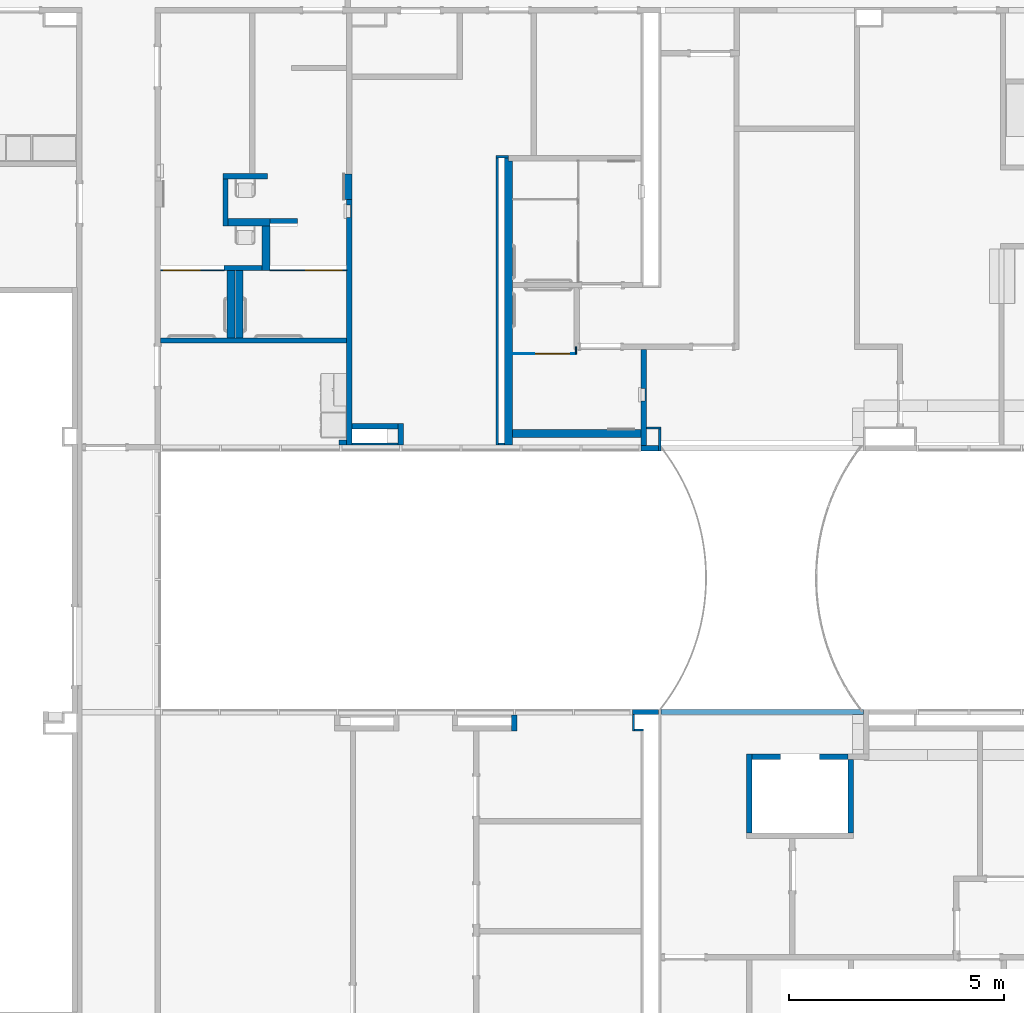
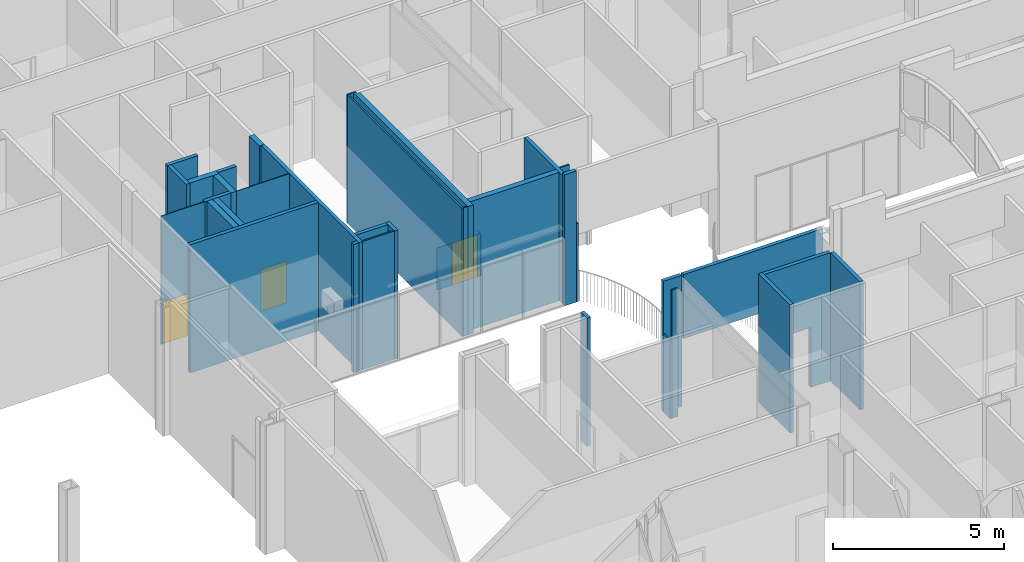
# One storey, part 13 of 45: 36 walls, 3 doors, 8 openings.
"""IFC2X3 building model written with IfcOpenShell, lengths in metres."""

from ifc_helpers import new_model, entity, si_unit, converted_unit, frame, frame_2d, origin, origin_2d_with_axis, place, context, project, spatial, polyline, rectangle, outline, extrude, source, transform, mapped, material, layer, layer_set, layer_usage, type_object, type_shapes, element, fill, save


model = new_model("IFC2X3")

# Units and contexts
model_context = context("Model", 3, precision=1e-09, world=origin())
plan_context = context("Plan", 3, precision=1e-09, world=origin())
ifc_project = project(units=[si_unit("LENGTHUNIT", "METRE"), si_unit("AREAUNIT", "SQUARE_METRE"), si_unit("VOLUMEUNIT", "CUBIC_METRE"), converted_unit("PLANEANGLEUNIT", "DEGREE", entity("IfcRatioMeasure", 0.01745329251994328), si_unit("PLANEANGLEUNIT", "RADIAN"), dimensions=[0, 0, 0, 0, 0, 0, 0]), si_unit("TIMEUNIT", "SECOND")], contexts=[model_context, plan_context])

# Site, building, storey
site_placement = place(None, origin())
site = spatial("IfcSite", under=ifc_project, at=site_placement, Name="Default", CompositionType="ELEMENT")
building_placement = place(site_placement, origin())
building = spatial("IfcBuilding", under=site, at=building_placement, CompositionType="ELEMENT")
storey_placement = place(building_placement, frame((0.0, 0.0, 4.570000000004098)))
storey = spatial("IfcBuildingStorey", under=building, at=storey_placement, Name="Second Floor", CompositionType="ELEMENT", Elevation=4.570000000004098)

# Wall, opening
ifc_material_1 = material(Name="Plasterboard")
ifc_layer_1 = layer(ifc_material_1, 0.016)
ifc_material_2 = material(Name="Metal - Stud Layer")
ifc_layer_2 = layer(ifc_material_2, 0.092)
ifc_layer_3 = layer(ifc_material_1, 0.016)
ifc_layer_set_1 = layer_set([ifc_layer_1, ifc_layer_2, ifc_layer_3], Name="Basic Wall:Interior - Partition (92mm Stud)")
ifc_layer_usage_1 = layer_usage(ifc_layer_set_1, "AXIS2", "NEGATIVE", 0.062)
wall_1_placement = place(storey_placement, frame((-19.85700000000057, 34.77180159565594, 0.0), z_axis=(0.0, 0.0, 1.0), x_axis=(-1.0, 0.0, 0.0)))
wall_1 = element("IfcWallStandardCase", 1, at=wall_1_placement, inside=storey, material=ifc_layer_usage_1, Name="Basic Wall:Interior - Partition (92mm Stud)", ObjectType="Basic Wall:Interior - Partition (92mm Stud)", context=model_context, shape_type="SweptSolid", body=[
    extrude(rectangle(XDim=0.4059999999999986, YDim=0.1240000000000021, at=frame_2d((0.2300000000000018, 0.0), x_axis=(-1.0, 0.0))), origin(), (0.0, 0.0, 1.0), 4.679999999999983),
])
opening_1_placement = place(wall_1_placement, origin())
element("IfcOpeningElement", 2, at=opening_1_placement, cuts=wall_1, ObjectType="Opening", context=model_context, shape_type="SweptSolid", body=[
    extrude(rectangle(XDim=2.4, YDim=11.19900000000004, at=origin_2d_with_axis()), frame((6.032500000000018, -0.2144000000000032, 1.199999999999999), z_axis=(0.0, 1.0, 0.0), x_axis=(0.0, 0.0, 1.0)), (0.0, 0.0, 1.0), 0.4288000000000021),
])

ifc_layer_usage_2 = layer_usage(ifc_layer_set_1, "AXIS2", "POSITIVE", -0.062)
wall_2_placement = place(storey_placement, frame((-19.85700000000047, 28.62819840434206, 0.0), z_axis=(0.0, 0.0, 1.0), x_axis=(-1.0, 0.0, 0.0)))
wall_2 = element("IfcWallStandardCase", 3, at=wall_2_placement, inside=storey, material=ifc_layer_usage_2, Name="Basic Wall:Interior - Partition (92mm Stud)", ObjectType="Basic Wall:Interior - Partition (92mm Stud)", context=model_context, shape_type="SweptSolid", body=[
    extrude(rectangle(XDim=0.1240000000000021, YDim=0.6110000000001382, at=frame_2d((0.3325000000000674, 0.0), x_axis=(0.0, 1.0))), origin(), (0.0, 0.0, 1.0), 4.679999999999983),
])
opening_2_placement = place(wall_2_placement, origin())
element("IfcOpeningElement", 4, at=opening_2_placement, cuts=wall_2, ObjectType="Opening", context=model_context, shape_type="SweptSolid", body=[
    extrude(rectangle(XDim=2.399999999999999, YDim=10.99100000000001, at=origin_2d_with_axis()), frame((6.133500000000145, -0.2144000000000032, 1.199999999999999), z_axis=(0.0, 1.0, 0.0), x_axis=(0.0, 0.0, 1.0)), (0.0, 0.0, 1.0), 0.4288000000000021),
])

wall_3_placement = place(storey_placement, frame((-27.08800000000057, 34.84680159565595, 0.0), z_axis=(0.0, 0.0, 1.0), x_axis=(0.0, 1.0, 0.0)))
wall_3 = element("IfcWallStandardCase", 5, at=wall_3_placement, inside=storey, material=ifc_layer_usage_1, Name="Basic Wall:Interior - Partition (92mm Stud)", ObjectType="Basic Wall:Interior - Partition (92mm Stud)", context=model_context, shape_type="SweptSolid", body=[
    extrude(rectangle(XDim=5.717637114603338, YDim=0.1239999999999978, at=frame_2d((2.858818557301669, 0.0), x_axis=(-1.0, 0.0))), origin(), (0.0, 0.0, 1.0), 4.577999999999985),
])
opening_3_placement = place(wall_3_placement, origin())
element("IfcOpeningElement", 6, at=opening_3_placement, cuts=wall_3, ObjectType="Opening", context=model_context, shape_type="SweptSolid", body=[
    extrude(rectangle(XDim=1.362075, YDim=0.2984499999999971, at=frame_2d((0.0, 0.0), x_axis=(0.0, 1.0))), frame((5.449845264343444, -0.02690000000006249, 1.041399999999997), z_axis=(0.0, 1.0, 0.0), x_axis=(1.0, 0.0, 0.0)), (0.0, 0.0, 1.0), 0.1524000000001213),
])

# Walls
ifc_layer_4 = layer(ifc_material_1, 0.016)
ifc_layer_5 = layer(ifc_material_2, 0.152)
ifc_layer_6 = layer(ifc_material_1, 0.016)
ifc_layer_set_2 = layer_set([ifc_layer_4, ifc_layer_5, ifc_layer_6], Name="Basic Wall:Interior - Plumbing (152mm Stud)")
ifc_layer_usage_3 = layer_usage(ifc_layer_set_2, "AXIS2", "NEGATIVE", 0.092)
wall_4_placement = place(storey_placement, frame((-23.3820000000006, 41.54043871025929, 0.0), z_axis=(0.0, 0.0, 1.0), x_axis=(0.0, -1.0, 0.0)))
element("IfcWallStandardCase", 7, at=wall_4_placement, inside=storey, material=ifc_layer_usage_3, Name="Basic Wall:Interior - Plumbing (152mm Stud)", ObjectType="Basic Wall:Interior - Plumbing (152mm Stud)", context=model_context, shape_type="SweptSolid", body=[
    extrude(outline(polyline([(6.693637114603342, -0.09200000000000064), (6.693637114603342, 0.09200000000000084), (6.515438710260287, 0.09200000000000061), (6.331438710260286, 0.09200000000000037), (3.026085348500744, 0.09200000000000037), (2.902085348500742, 0.0920000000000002), (0.0700000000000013, 0.09200000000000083), (0.07000000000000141, 0.0), (0.0, 0.0), (0.0, -0.09200000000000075), (6.639637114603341, -0.0920000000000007), (6.693637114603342, -0.09200000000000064)])), origin(), (0.0, 0.0, 1.0), 4.577999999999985),
])
wall_5_placement = place(storey_placement, frame((-31.4860000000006, 37.2824387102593, 0.0)))
element("IfcWallStandardCase", 8, at=wall_5_placement, inside=storey, material=ifc_layer_usage_1, Name="Basic Wall:Interior - Partition (92mm Stud)", ObjectType="Basic Wall:Interior - Partition (92mm Stud)", context=model_context, shape_type="SweptSolid", body=[
    extrude(rectangle(XDim=4.336000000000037, YDim=0.1239999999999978, at=frame_2d((2.168000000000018, 0.0), x_axis=(-1.0, 0.0))), origin(), (0.0, 0.0, 1.0), 4.577999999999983),
])
wall_6_placement = place(storey_placement, frame((-29.12400000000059, 38.97176656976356, 0.0), z_axis=(0.0, 0.0, 1.0), x_axis=(-1.0, 0.0, 0.0)))
element("IfcWallStandardCase", 9, at=wall_6_placement, inside=storey, material=ifc_layer_usage_1, Name="Basic Wall:Interior - Partition (92mm Stud)", ObjectType="Basic Wall:Interior - Partition (92mm Stud)", context=model_context, shape_type="SweptSolid", body=[
    extrude(rectangle(XDim=0.8799999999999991, YDim=0.1239999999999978, at=frame_2d((0.4399999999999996, 0.0), x_axis=(-1.0, 0.0))), origin(), (0.0, 0.0, 1.0), 4.577999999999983),
])

# Wall, opening
wall_7_placement = place(storey_placement, frame((-20.22800000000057, 34.83380159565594, 0.0), z_axis=(0.0, 0.0, 1.0), x_axis=(0.0, 1.0, 0.0)))
wall_7 = element("IfcWallStandardCase", 10, at=wall_7_placement, inside=storey, material=ifc_layer_usage_1, Name="Basic Wall:Interior - Partition (92mm Stud)", ObjectType="Basic Wall:Interior - Partition (92mm Stud)", context=model_context, shape_type="SweptSolid", body=[
    extrude(rectangle(XDim=2.240637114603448, YDim=0.1239999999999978, at=frame_2d((1.120318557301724, 0.0), x_axis=(-1.0, 0.0))), origin(), (0.0, 0.0, 1.0), 4.577999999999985),
])
opening_4_placement = place(wall_7_placement, origin())
element("IfcOpeningElement", 11, at=opening_4_placement, cuts=wall_7, ObjectType="Opening", context=model_context, shape_type="SweptSolid", body=[
    extrude(rectangle(XDim=1.362075, YDim=0.2984500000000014, at=frame_2d((0.0, 0.0), x_axis=(0.0, 1.0))), frame((1.185737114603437, -0.0269000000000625, 1.041399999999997), z_axis=(0.0, 1.0, 0.0), x_axis=(1.0, 0.0, 0.0)), (0.0, 0.0, 1.0), 0.1524000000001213),
])

ifc_material_3 = material(Name="Type-X Plasterboard")
ifc_layer_7 = layer(ifc_material_3, 0.016)
ifc_layer_8 = layer(ifc_material_2, 0.092)
ifc_layer_9 = layer(ifc_material_3, 0.016)
ifc_layer_set_3 = layer_set([ifc_layer_7, ifc_layer_8, ifc_layer_9], Name="Basic Wall:Interior - Rated 1-HR (92mm Stud)")
ifc_layer_usage_4 = layer_usage(ifc_layer_set_3, "AXIS2", "NEGATIVE", 0.06200000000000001)
wall_8_placement = place(storey_placement, frame((-17.70520000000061, 27.58389999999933, 0.0)))
wall_8 = element("IfcWallStandardCase", 12, at=wall_8_placement, inside=storey, material=ifc_layer_usage_4, Name="Basic Wall:Interior - Rated 1-HR (92mm Stud)", ObjectType="Basic Wall:Interior - Rated 1-HR (92mm Stud)", context=model_context, shape_type="SweptSolid", body=[
    extrude(rectangle(XDim=2.235199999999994, YDim=0.1239999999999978, at=frame_2d((1.117599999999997, 0.0), x_axis=(-1.0, 0.0))), origin(), (0.0, 0.0, 1.0), 4.577999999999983),
])
opening_5_placement = place(wall_8_placement, frame((1.117599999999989, 0.0619999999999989, 1.067000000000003)))
element("IfcOpeningElement", 13, at=opening_5_placement, cuts=wall_8, Name="Basic Wall:Interior - Rated 1-HR (92mm Stud):2", ObjectType="Opening", context=model_context, shape_type="SweptSolid", body=[
    extrude(rectangle(XDim=2.134000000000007, YDim=0.9144000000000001, at=frame_2d((0.0, 0.0), x_axis=(0.0, 1.0))), frame((0.0, 0.0, 0.0), z_axis=(0.0, -1.0, 0.0), x_axis=(1.0, 0.0, 0.0)), (0.0, 0.0, 1.0), 0.124),
])

# Walls
wall_9_placement = place(storey_placement, frame((-15.04797500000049, 28.62819840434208, 2.399999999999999), z_axis=(0.0, 0.0, 1.0), x_axis=(-1.0, 0.0, 0.0)))
element("IfcWallStandardCase", 14, at=wall_9_placement, inside=storey, material=ifc_layer_usage_2, Name="Basic Wall:Interior - Partition (92mm Stud)", ObjectType="Basic Wall:Interior - Partition (92mm Stud)", context=model_context, shape_type="SweptSolid", body=[
    extrude(rectangle(XDim=4.72002499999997, YDim=0.1240000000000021, at=frame_2d((2.422012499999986, 0.0), x_axis=(-1.0, 0.0))), origin(), (0.0, 0.0, 1.0), 2.279999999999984),
])
wall_10_placement = place(storey_placement, frame((-29.91000000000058, 40.03954685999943, 0.0)))
element("IfcWallStandardCase", 15, at=wall_10_placement, inside=storey, material=ifc_layer_usage_3, Name="Basic Wall:Interior - Plumbing (152mm Stud)", ObjectType="Basic Wall:Interior - Plumbing (152mm Stud)", context=model_context, shape_type="SweptSolid", body=[
    extrude(rectangle(XDim=0.969999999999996, YDim=0.1839999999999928, at=frame_2d((0.484999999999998, 0.0), x_axis=(-1.0, 0.0))), origin(), (0.0, 0.0, 1.0), 4.577999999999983),
])
wall_11_placement = place(storey_placement, frame((-27.11800000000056, 40.5644387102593, 0.0), z_axis=(0.0, 0.0, 1.0), x_axis=(0.0, 1.0, 0.0)))
element("IfcWallStandardCase", 16, at=wall_11_placement, inside=storey, material=ifc_layer_usage_3, Name="Basic Wall:Interior - Plumbing (152mm Stud)", ObjectType="Basic Wall:Interior - Plumbing (152mm Stud)", context=model_context, shape_type="SweptSolid", body=[
    extrude(rectangle(XDim=0.6000000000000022, YDim=0.1840000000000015, at=frame_2d((0.3000000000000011, 0.0), x_axis=(-1.0, 0.0))), origin(), (0.0, 0.0, 1.0), 4.577999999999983),
])
ifc_material_4 = material(Name="Laminate - Ivory, Matte")
ifc_layer_10 = layer(ifc_material_4, 0.025)
ifc_layer_set_4 = layer_set([ifc_layer_10], Name="Basic Wall:Interior - Toilet Partition (25mm)")
ifc_layer_usage_5 = layer_usage(ifc_layer_set_4, "AXIS2", "NEGATIVE", 0.0125)
wall_12_placement = place(storey_placement, frame((-21.80750115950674, 37.13643871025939, 0.25), z_axis=(0.0, 0.0, 1.0), x_axis=(0.0, -1.0, 0.0)))
element("IfcWallStandardCase", 17, at=wall_12_placement, inside=storey, material=ifc_layer_usage_5, Name="Basic Wall:Interior - Toilet Partition (25mm)", ObjectType="Basic Wall:Interior - Toilet Partition (25mm)", context=model_context, shape_type="SweptSolid", body=[
    extrude(rectangle(XDim=0.1720854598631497, YDim=0.02500000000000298, at=frame_2d((0.08604272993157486, 0.0), x_axis=(-1.0, 0.0))), origin(), (0.0, 0.0, 1.0), 1.5),
])
wall_13_placement = place(storey_placement, frame((-15.40800000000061, 27.64589999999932, 0.0), z_axis=(0.0, 0.0, 1.0), x_axis=(0.0, -1.0, 0.0)))
element("IfcWallStandardCase", 18, at=wall_13_placement, inside=storey, material=ifc_layer_usage_4, Name="Basic Wall:Interior - Rated 1-HR (92mm Stud)", ObjectType="Basic Wall:Interior - Rated 1-HR (92mm Stud)", context=model_context, shape_type="SweptSolid", body=[
    extrude(rectangle(XDim=1.714499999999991, YDim=0.124, at=frame_2d((0.9812499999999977, 0.0), x_axis=(-1.0, 0.0))), origin(), (0.0, 0.0, 1.0), 4.577999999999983),
])
wall_14_placement = place(storey_placement, frame((-29.03200000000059, 39.94754685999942, 0.0), z_axis=(0.0, 0.0, 1.0), x_axis=(0.0, -1.0, 0.0)))
element("IfcWallStandardCase", 19, at=wall_14_placement, inside=storey, material=ifc_layer_usage_3, Name="Basic Wall:Interior - Plumbing (152mm Stud)", ObjectType="Basic Wall:Interior - Plumbing (152mm Stud)", context=model_context, shape_type="SweptSolid", body=[
    extrude(rectangle(XDim=1.03778029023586, YDim=0.1840000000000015, at=frame_2d((0.5188901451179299, 0.0), x_axis=(-1.0, 0.0))), origin(), (0.0, 0.0, 1.0), 4.577999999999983),
])
ifc_layer_11 = layer(ifc_material_2, 0.038)
ifc_layer_12 = layer(ifc_material_1, 0.016)
ifc_layer_set_5 = layer_set([ifc_layer_11, ifc_layer_12], Name="Basic Wall:Interior - Furring (38 mm Stud)")
ifc_layer_usage_6 = layer_usage(ifc_layer_set_5, "AXIS2", "POSITIVE", -0.027)
wall_15_placement = place(storey_placement, frame((-19.85700000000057, 35.22043871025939, 0.0), z_axis=(0.0, 0.0, 1.0), x_axis=(0.0, -1.0, 0.0)))
element("IfcWallStandardCase", 20, at=wall_15_placement, inside=storey, material=ifc_layer_usage_6, Name="Basic Wall:Interior - Furring (38 mm Stud)", ObjectType="Basic Wall:Interior - Furring (38 mm Stud)", context=model_context, shape_type="SweptSolid", body=[
    extrude(rectangle(XDim=0.510637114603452, YDim=0.05399999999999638, at=frame_2d((0.255318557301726, 0.0), x_axis=(-1.0, 0.0))), origin(), (0.0, 0.0, 1.0), 2.799999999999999),
])
wall_16_placement = place(storey_placement, frame((-23.6700000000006, 41.5674387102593, 0.0)))
element("IfcWallStandardCase", 21, at=wall_16_placement, inside=storey, material=ifc_layer_usage_6, Name="Basic Wall:Interior - Furring (38 mm Stud)", ObjectType="Basic Wall:Interior - Furring (38 mm Stud)", context=model_context, shape_type="SweptSolid", body=[
    extrude(rectangle(XDim=0.2879999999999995, YDim=0.05400000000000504, at=frame_2d((0.1439999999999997, 0.0), x_axis=(-1.0, 0.0))), origin(), (0.0, 0.0, 1.0), 4.577999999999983),
])

# Wall, opening, door
wall_17_placement = place(storey_placement, frame((-30.00400000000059, 38.92226656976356, 0.0), z_axis=(0.0, 0.0, 1.0), x_axis=(-1.0, 0.0, 0.0)))
wall_17 = element("IfcWallStandardCase", 22, at=wall_17_placement, inside=storey, material=ifc_layer_usage_5, Name="Basic Wall:Interior - Toilet Partition (25mm)", ObjectType="Basic Wall:Interior - Toilet Partition (25mm)", context=model_context, shape_type="SweptSolid", body=[
    extrude(rectangle(XDim=1.482000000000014, YDim=0.02500000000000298, at=frame_2d((0.741000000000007, 0.0), x_axis=(-1.0, 0.0))), origin(), (0.0, 0.0, 1.0), 4.577999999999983),
])
opening_6_placement = place(wall_17_placement, frame((1.417000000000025, 0.0124999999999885, 0.0)))
opening_6 = element("IfcOpeningElement", 23, at=opening_6_placement, cuts=wall_17, Name=":1", ObjectType="Opening", context=model_context, shape_type="SweptSolid", body=[
    extrude(rectangle(XDim=0.8649999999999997, YDim=1.5, at=frame_2d((0.7500000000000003, 0.4325000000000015), x_axis=(0.0, -1.0))), frame((0.0, 0.0, 0.0), z_axis=(0.0, -1.0, 0.0), x_axis=(0.0, 0.0, 1.0)), (0.0, 0.0, 1.0), 0.025),
])
door_style_1 = type_object("IfcDoorStyle", Name="0865 x 1500mm", ConstructionType="NOTDEFINED", OperationType="SINGLE_SWING_LEFT", ParameterTakesPrecedence=False, Sizeable=False)
shared_shape_1 = source(origin(), model_context, "Body", "SweptSolid", [
    extrude(rectangle(XDim=0.8649999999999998, YDim=0.025, at=origin_2d_with_axis()), frame((0.4325000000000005, 0.01249999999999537, 0.0)), (0.0, 0.0, 1.0), 1.499999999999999),
])
type_shapes(door_style_1, [shared_shape_1])
door_1_placement = place(opening_6_placement, frame((0.0, 0.0, 0.0), z_axis=(0.0, 0.0, 1.0), x_axis=(-1.0, 0.0, 0.0)))
door_1 = element("IfcDoor", 24, at=door_1_placement, inside=storey, type_object=door_style_1, Name="M_Toilet Partition:0865 x 1500mm:0865 x 1500mm", ObjectType="0865 x 1500mm", OverallHeight=1.5, OverallWidth=0.8650000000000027, context=model_context, shape_type="MappedRepresentation", body=[
    mapped(shared_shape_1, transform((0.0, 0.0, 0.0), scale=1.0)),
])
fill(opening_6, door_1)

# Walls
wall_18_placement = place(storey_placement, frame((-28.99560000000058, 41.10854685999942, 0.0), z_axis=(0.0, 0.0, 1.0), x_axis=(-1.0, 0.0, 0.0)))
element("IfcWallStandardCase", 25, at=wall_18_placement, inside=storey, material=ifc_layer_usage_1, Name="Basic Wall:Interior - Partition (92mm Stud)", ObjectType="Basic Wall:Interior - Partition (92mm Stud)", context=model_context, shape_type="SweptSolid", body=[
    extrude(rectangle(XDim=1.038400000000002, YDim=0.1240000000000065, at=frame_2d((0.5192000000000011, 0.0), x_axis=(-1.0, 0.0))), origin(), (0.0, 0.0, 1.0), 4.577999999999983),
])
wall_19_placement = place(storey_placement, frame((-29.97200000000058, 41.04654685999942, 0.0), z_axis=(0.0, 0.0, 1.0), x_axis=(0.0, -1.0, 0.0)))
element("IfcWallStandardCase", 26, at=wall_19_placement, inside=storey, material=ifc_layer_usage_1, Name="Basic Wall:Interior - Partition (92mm Stud)", ObjectType="Basic Wall:Interior - Partition (92mm Stud)", context=model_context, shape_type="SweptSolid", body=[
    extrude(rectangle(XDim=1.099000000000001, YDim=0.1239999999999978, at=frame_2d((0.5495000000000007, 0.0), x_axis=(-1.0, 0.0))), origin(), (0.0, 0.0, 1.0), 4.577999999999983),
])
ifc_layer_usage_7 = layer_usage(ifc_layer_set_5, "AXIS2", "NEGATIVE", 0.027)
wall_20_placement = place(storey_placement, frame((-20.4680000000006, 28.56619840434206, 0.0), z_axis=(0.0, 0.0, 1.0), x_axis=(0.0, -1.0, 0.0)))
element("IfcWallStandardCase", 27, at=wall_20_placement, inside=storey, material=ifc_layer_usage_7, Name="Basic Wall:Interior - Furring (38 mm Stud)", ObjectType="Basic Wall:Interior - Furring (38 mm Stud)", context=model_context, shape_type="SweptSolid", body=[
    extrude(rectangle(XDim=0.3817596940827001, YDim=0.05399999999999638, at=frame_2d((0.19087984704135, 0.0), x_axis=(-1.0, 0.0))), origin(), (0.0, 0.0, 1.0), 2.799999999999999),
])
wall_21_placement = place(storey_placement, frame((-28.94000000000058, 40.06954685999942, 0.0)))
element("IfcWallStandardCase", 28, at=wall_21_placement, inside=storey, material=ifc_layer_usage_1, Name="Basic Wall:Interior - Partition (92mm Stud)", ObjectType="Basic Wall:Interior - Partition (92mm Stud)", context=model_context, shape_type="SweptSolid", body=[
    extrude(rectangle(XDim=0.6400000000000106, YDim=0.1240000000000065, at=frame_2d((0.3200000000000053, 0.0), x_axis=(-1.0, 0.0))), origin(), (0.0, 0.0, 1.0), 4.577999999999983),
])
wall_22_placement = place(storey_placement, frame((-23.64300000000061, 34.84680159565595, 0.0), z_axis=(0.0, 0.0, 1.0), x_axis=(0.0, 1.0, 0.0)))
element("IfcWallStandardCase", 29, at=wall_22_placement, inside=storey, material=ifc_layer_usage_6, Name="Basic Wall:Interior - Furring (38 mm Stud)", ObjectType="Basic Wall:Interior - Furring (38 mm Stud)", context=model_context, shape_type="SweptSolid", body=[
    extrude(rectangle(XDim=6.69363711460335, YDim=0.05399999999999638, at=frame_2d((3.346818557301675, 0.0), x_axis=(-1.0, 0.0))), origin(), (0.0, 0.0, 1.0), 4.577999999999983),
])
wall_23_placement = place(storey_placement, frame((-20.29000000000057, 35.116999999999, 0.0), z_axis=(0.0, 0.0, 1.0), x_axis=(-1.0, 0.0, 0.0)))
element("IfcWallStandardCase", 30, at=wall_23_placement, inside=storey, material=ifc_layer_usage_3, Name="Basic Wall:Interior - Plumbing (152mm Stud)", ObjectType="Basic Wall:Interior - Plumbing (152mm Stud)", context=model_context, shape_type="SweptSolid", body=[
    extrude(rectangle(XDim=3.000000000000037, YDim=0.1840000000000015, at=frame_2d((1.500000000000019, 0.0), x_axis=(-1.0, 0.0))), origin(), (0.0, 0.0, 1.0), 4.577999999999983),
])
wall_24_placement = place(storey_placement, frame((-20.16600000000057, 35.2474387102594, 0.0)))
element("IfcWallStandardCase", 31, at=wall_24_placement, inside=storey, material=ifc_layer_usage_6, Name="Basic Wall:Interior - Furring (38 mm Stud)", ObjectType="Basic Wall:Interior - Furring (38 mm Stud)", context=model_context, shape_type="SweptSolid", body=[
    extrude(rectangle(XDim=0.3359999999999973, YDim=0.05399999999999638, at=frame_2d((0.1679999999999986, 0.0), x_axis=(-1.0, 0.0))), origin(), (0.0, 0.0, 1.0), 4.577999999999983),
])
wall_25_placement = place(storey_placement, frame((-29.65200000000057, 38.90976656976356, 0.0), z_axis=(0.0, 0.0, 1.0), x_axis=(0.0, -1.0, 0.0)))
element("IfcWallStandardCase", 32, at=wall_25_placement, inside=storey, material=ifc_layer_usage_3, Name="Basic Wall:Interior - Plumbing (152mm Stud)", ObjectType="Basic Wall:Interior - Plumbing (152mm Stud)", context=model_context, shape_type="SweptSolid", body=[
    extrude(rectangle(XDim=1.565327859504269, YDim=0.1840000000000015, at=frame_2d((0.7826639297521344, 0.0), x_axis=(-1.0, 0.0))), origin(), (0.0, 0.0, 1.0), 4.577999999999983),
])

# Wall, opening, door
wall_26_placement = place(storey_placement, frame((-21.82000115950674, 36.97685325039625, 0.25), z_axis=(0.0, 0.0, 1.0), x_axis=(-1.0, 0.0, 0.0)))
wall_26 = element("IfcWallStandardCase", 33, at=wall_26_placement, inside=storey, material=ifc_layer_usage_5, Name="Basic Wall:Interior - Toilet Partition (25mm)", ObjectType="Basic Wall:Interior - Toilet Partition (25mm)", context=model_context, shape_type="SweptSolid", body=[
    extrude(rectangle(XDim=1.469998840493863, YDim=0.02500000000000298, at=frame_2d((0.7349994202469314, 0.0), x_axis=(-1.0, 0.0))), origin(), (0.0, 0.0, 1.0), 1.5),
])
opening_7_placement = place(wall_26_placement, frame((0.09999999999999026, -0.01249999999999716, 0.0)))
opening_7 = element("IfcOpeningElement", 34, at=opening_7_placement, cuts=wall_26, Name="M_Toilet Partition:0865 x 1500mm:0865 x 1500mm:1", ObjectType="Opening", context=model_context, shape_type="SweptSolid", body=[
    extrude(rectangle(XDim=0.8649999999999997, YDim=1.5, at=frame_2d((0.7499999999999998, 0.4325000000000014), x_axis=(0.0, 1.0))), frame((0.0, 0.0, 0.0), z_axis=(0.0, 1.0, 0.0), x_axis=(0.0, 0.0, 1.0)), (0.0, 0.0, 1.0), 0.025),
])
door_style_2 = type_object("IfcDoorStyle", Name="0865 x 1500mm", ConstructionType="NOTDEFINED", OperationType="SINGLE_SWING_RIGHT", ParameterTakesPrecedence=False, Sizeable=False)
shared_shape_2 = source(origin(), model_context, "Body", "SweptSolid", [
    extrude(rectangle(XDim=0.025, YDim=0.8649999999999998, at=origin_2d_with_axis()), frame((0.4325000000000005, 0.0124999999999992, 0.0), z_axis=(0.0, 0.0, 1.0), x_axis=(0.0, 1.0, 0.0)), (0.0, 0.0, 1.0), 1.499999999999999),
])
type_shapes(door_style_2, [shared_shape_2])
door_2_placement = place(opening_7_placement, origin())
door_2 = element("IfcDoor", 35, at=door_2_placement, inside=storey, type_object=door_style_2, Name="M_Toilet Partition:0865 x 1500mm:0865 x 1500mm", ObjectType="0865 x 1500mm", OverallHeight=1.5, OverallWidth=0.8650000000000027, context=model_context, shape_type="MappedRepresentation", body=[
    mapped(shared_shape_2, transform((0.0, 0.0, 0.0), scale=1.0)),
])
fill(opening_7, door_2)

# Walls
wall_27_placement = place(storey_placement, frame((-17.76720000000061, 25.80739999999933, 0.0), z_axis=(0.0, 0.0, 1.0), x_axis=(0.0, 1.0, 0.0)))
element("IfcWallStandardCase", 36, at=wall_27_placement, inside=storey, material=ifc_layer_usage_4, Name="Basic Wall:Interior - Rated 1-HR (92mm Stud)", ObjectType="Basic Wall:Interior - Rated 1-HR (92mm Stud)", context=model_context, shape_type="SweptSolid", body=[
    extrude(rectangle(XDim=1.838499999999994, YDim=0.1240000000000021, at=frame_2d((0.9192499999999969, 0.0), x_axis=(-1.0, 0.0))), origin(), (0.0, 0.0, 1.0), 4.577999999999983),
])
wall_28_placement = place(storey_placement, frame((-29.84800000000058, 37.3444387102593, 0.0), z_axis=(0.0, 0.0, 1.0), x_axis=(0.0, 1.0, 0.0)))
element("IfcWallStandardCase", 37, at=wall_28_placement, inside=storey, material=ifc_layer_usage_3, Name="Basic Wall:Interior - Plumbing (152mm Stud)", ObjectType="Basic Wall:Interior - Plumbing (152mm Stud)", context=model_context, shape_type="SweptSolid", body=[
    extrude(rectangle(XDim=1.565327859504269, YDim=0.1840000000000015, at=frame_2d((0.7826639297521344, 0.0), x_axis=(-1.0, 0.0))), origin(), (0.0, 0.0, 1.0), 4.577999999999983),
])
wall_29_placement = place(storey_placement, frame((-23.2435000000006, 28.55319840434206, 0.0), z_axis=(0.0, 0.0, 1.0), x_axis=(0.0, -1.0, 0.0)))
element("IfcWallStandardCase", 38, at=wall_29_placement, inside=storey, material=ifc_layer_usage_1, Name="Basic Wall:Interior - Partition (92mm Stud)", ObjectType="Basic Wall:Interior - Partition (92mm Stud)", context=model_context, shape_type="SweptSolid", body=[
    extrude(rectangle(XDim=0.3687596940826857, YDim=0.1239999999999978, at=frame_2d((0.1843798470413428, 0.0), x_axis=(-1.0, 0.0))), origin(), (0.0, 0.0, 1.0), 4.577999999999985),
])
wall_30_placement = place(storey_placement, frame((-23.6160000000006, 34.87380159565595, 0.0)))
element("IfcWallStandardCase", 39, at=wall_30_placement, inside=storey, material=ifc_layer_usage_7, Name="Basic Wall:Interior - Furring (38 mm Stud)", ObjectType="Basic Wall:Interior - Furring (38 mm Stud)", context=model_context, shape_type="SweptSolid", body=[
    extrude(rectangle(XDim=0.141999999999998, YDim=0.05399999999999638, at=frame_2d((0.07099999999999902, 0.0), x_axis=(-1.0, 0.0))), origin(), (0.0, 0.0, 1.0), 4.577999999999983),
])
wall_31_placement = place(storey_placement, frame((-25.95150000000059, 35.28880159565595, 0.0), z_axis=(0.0, 0.0, 1.0), x_axis=(-1.0, 0.0, 0.0)))
element("IfcWallStandardCase", 40, at=wall_31_placement, inside=storey, material=ifc_layer_usage_1, Name="Basic Wall:Interior - Partition (92mm Stud)", ObjectType="Basic Wall:Interior - Partition (92mm Stud)", context=model_context, shape_type="SweptSolid", body=[
    extrude(rectangle(XDim=1.074499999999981, YDim=0.1239999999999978, at=frame_2d((0.5372499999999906, 0.0), x_axis=(-1.0, 0.0))), origin(), (0.0, 0.0, 1.0), 4.577999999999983),
])
wall_32_placement = place(storey_placement, frame((-25.88950000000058, 34.84680159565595, 0.0), z_axis=(0.0, 0.0, 1.0), x_axis=(0.0, 1.0, 0.0)))
element("IfcWallStandardCase", 41, at=wall_32_placement, inside=storey, material=ifc_layer_usage_1, Name="Basic Wall:Interior - Partition (92mm Stud)", ObjectType="Basic Wall:Interior - Partition (92mm Stud)", context=model_context, shape_type="SweptSolid", body=[
    extrude(rectangle(XDim=0.5040000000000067, YDim=0.1239999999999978, at=frame_2d((0.2520000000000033, 0.0), x_axis=(-1.0, 0.0))), origin(), (0.0, 0.0, 1.0), 4.577999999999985),
])
wall_33_placement = place(storey_placement, frame((-20.44100000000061, 28.21143871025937, 0.0)))
element("IfcWallStandardCase", 42, at=wall_33_placement, inside=storey, material=ifc_layer_usage_7, Name="Basic Wall:Interior - Furring (38 mm Stud)", ObjectType="Basic Wall:Interior - Furring (38 mm Stud)", context=model_context, shape_type="SweptSolid", body=[
    extrude(rectangle(XDim=0.205000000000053, YDim=0.05399999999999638, at=frame_2d((0.1025000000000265, 0.0), x_axis=(-1.0, 0.0))), origin(), (0.0, 0.0, 1.0), 4.577999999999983),
])
wall_34_placement = place(storey_placement, frame((-27.02600000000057, 34.87380159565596, 0.0)))
element("IfcWallStandardCase", 43, at=wall_34_placement, inside=storey, material=ifc_layer_usage_7, Name="Basic Wall:Interior - Furring (38 mm Stud)", ObjectType="Basic Wall:Interior - Furring (38 mm Stud)", context=model_context, shape_type="SweptSolid", body=[
    extrude(rectangle(XDim=1.074499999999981, YDim=0.05399999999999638, at=frame_2d((0.5372499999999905, 0.0), x_axis=(-1.0, 0.0))), origin(), (0.0, 0.0, 1.0), 4.577999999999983),
])
wall_35_placement = place(storey_placement, frame((-27.15000000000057, 34.90880159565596, 0.0), z_axis=(0.0, 0.0, 1.0), x_axis=(-1.0, 0.0, 0.0)))
element("IfcWallStandardCase", 44, at=wall_35_placement, inside=storey, material=ifc_layer_usage_1, Name="Basic Wall:Interior - Partition (92mm Stud)", ObjectType="Basic Wall:Interior - Partition (92mm Stud)", context=model_context, shape_type="SweptSolid", body=[
    extrude(rectangle(XDim=0.1780000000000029, YDim=0.1239999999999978, at=frame_2d((0.08900000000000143, 0.0), x_axis=(-1.0, 0.0))), origin(), (0.0, 0.0, 1.0), 4.577999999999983),
])

# Wall, opening, door
wall_36_placement = place(storey_placement, frame((-28.94000000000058, 38.92226656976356, 0.0)))
wall_36 = element("IfcWallStandardCase", 45, at=wall_36_placement, inside=storey, material=ifc_layer_usage_5, Name="Basic Wall:Interior - Toilet Partition (25mm)", ObjectType="Basic Wall:Interior - Toilet Partition (25mm)", context=model_context, shape_type="SweptSolid", body=[
    extrude(rectangle(XDim=1.790000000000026, YDim=0.02500000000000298, at=frame_2d((0.8950000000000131, 0.0), x_axis=(-1.0, 0.0))), origin(), (0.0, 0.0, 1.0), 4.577999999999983),
])
opening_8_placement = place(wall_36_placement, frame((1.685000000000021, 0.01249999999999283, 0.0)))
opening_8 = element("IfcOpeningElement", 46, at=opening_8_placement, cuts=wall_36, Name="M_Toilet Partition:0865 x 1500mm:0865 x 1500mm:1", ObjectType="Opening", context=model_context, shape_type="SweptSolid", body=[
    extrude(rectangle(XDim=0.8649999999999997, YDim=1.5, at=frame_2d((0.7500000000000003, 0.4325000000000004), x_axis=(0.0, -1.0))), frame((0.0, 0.0, 0.0), z_axis=(0.0, -1.0, 0.0), x_axis=(0.0, 0.0, 1.0)), (0.0, 0.0, 1.0), 0.025),
])
door_3_placement = place(opening_8_placement, frame((0.0, 0.0, 0.0), z_axis=(0.0, 0.0, 1.0), x_axis=(-1.0, 0.0, 0.0)))
door_3 = element("IfcDoor", 47, at=door_3_placement, inside=storey, type_object=door_style_1, Name="M_Toilet Partition:0865 x 1500mm:0865 x 1500mm", ObjectType="0865 x 1500mm", OverallHeight=1.5, OverallWidth=0.8649999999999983, context=model_context, shape_type="MappedRepresentation", body=[
    mapped(shared_shape_1, transform((0.0, 0.0, 0.0), scale=1.0)),
])
fill(opening_8, door_3)

save(model, "model.ifc")
